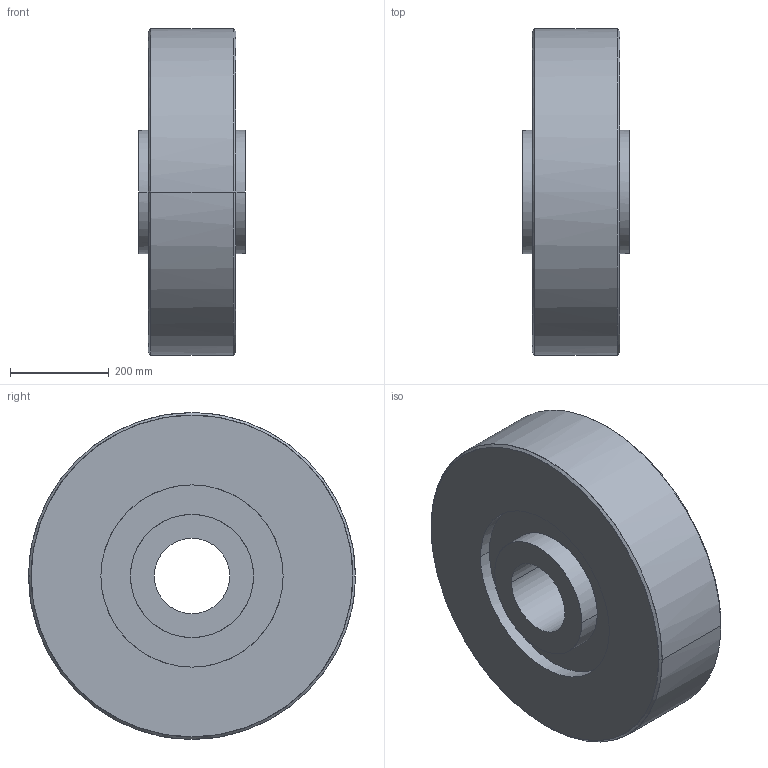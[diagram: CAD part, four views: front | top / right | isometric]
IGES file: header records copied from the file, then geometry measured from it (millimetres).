
Global section: native system: Kubotek KeyCreator; preprocessor: KCM Version 1.1.1442.0; author: KeyCreator User; organization: Self; date: 20170713.015146; units: inch
Bounding box: 215.9 x 660.4 x 660.4 mm (x, y, z)
Surface area: 1237126.4 mm2 (no closed solid volume)
Topology: 0 solids, 0 shells, 22 faces, 144 edges, 144 vertices
Faces by surface type: bspline 22
